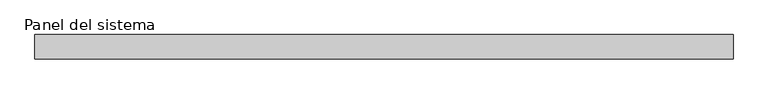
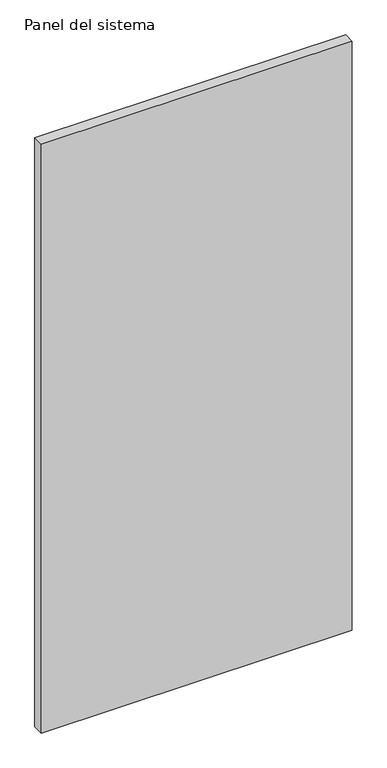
"""IFC4 building model written with IfcOpenShell, lengths in millimetres: plate geometry, Panel del sistema : Hiansa Panel - PANELES DE ILUMINACIÓN - POLICLADD Vert - 35mm."""

from ifc_helpers import new_model, si_unit, origin, origin_with_axes, place, context, project, spatial, polyline, outline, extrude, source, transform, mapped, element, save


def panel_del_sistema_f1661970(model_context):
    return source(origin(), model_context, "Body", "SweptSolid", [
        extrude(outline(polyline([(500.0000002, -35.0), (-500.0000002, -35.0), (-500.0000002, 0.0), (500.0000002, 0.0), (500.0000002, -35.0)])), origin_with_axes(), (0.0, 0.0, 1.0), 2000.0),
    ])


if __name__ == "__main__":
    model = new_model("IFC4")
    model_context = context("Model", 3, world=origin())
    ifc_project = project(units=[si_unit("LENGTHUNIT", "METRE", prefix="MILLI")], contexts=[model_context])
    site = spatial("IfcSite", under=ifc_project)
    building = spatial("IfcBuilding", under=site)
    placement = place(None, origin())
    panel_del_sistema_shape = panel_del_sistema_f1661970(model_context)
    element("IfcPlate", 1, ObjectType="Panel del sistema : Hiansa Panel - PANELES DE ILUMINACIÓN - POLICLADD Vert - 35mm", at=placement, inside=building, context=model_context, shape_type="MappedRepresentation", body=[
        mapped(panel_del_sistema_shape, transform((0.0, 0.0, 0.0), x_axis=(1.0, 0.0, 0.0), y_axis=(0.0, 1.0, 0.0), z_axis=(0.0, 0.0, 1.0))),
    ])
    save(model, "model.ifc")
